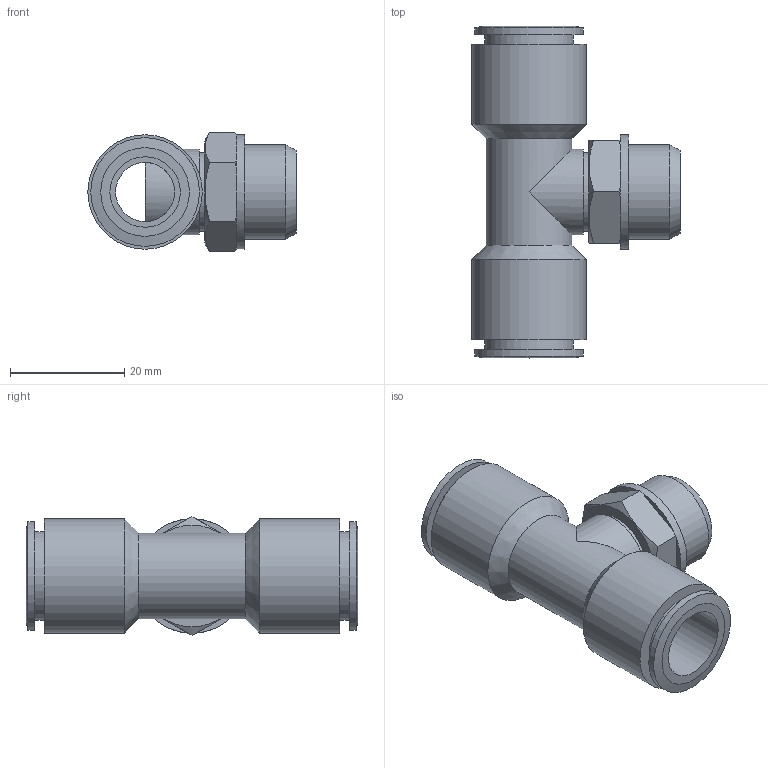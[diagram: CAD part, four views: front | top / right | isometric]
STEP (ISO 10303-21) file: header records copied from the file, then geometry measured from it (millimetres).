
FILE_DESCRIPTION((''),'2;1');
FILE_NAME('C:\Documents and Settings\rivolro1\Documenti\copia di Raccordi\PLASTICA\T20XXXX\T201238.stp','2007-10-31T15:27:21',('Rivolro1'),(''),'Autodesk Inventor 2008','Autodesk Inventor 2008','');
FILE_SCHEMA(('AUTOMOTIVE_DESIGN { 1 0 10303 214 1 1 1 1 }'));
Length unit declared in the file: millimetre
Products named in the file (1): T201238
Bounding box: 36.4 x 58 x 20.78 mm (x, y, z)
Volume: 12110.4 mm3; surface area: 8530.3 mm2
Topology: 1 solids, 1 shells, 56 faces, 114 edges, 70 vertices
Faces by surface type: plane 23, cylinder 16, cone 13, bspline 4
Full cylindrical faces by diameter (mm): 8.8 x1, 10.3 x1, 13.8 x1, 14 x1, 15 x2, 15.5 x2, 16.5 x1, 19 x2, 20 x3
Entity records: 1470 total; most frequent: CARTESIAN_POINT 353, DIRECTION 220, ORIENTED_EDGE 168, AXIS2_PLACEMENT_3D 103, EDGE_LOOP 94, EDGE_CURVE 84, VERTEX_POINT 64, FACE_OUTER_BOUND 56
